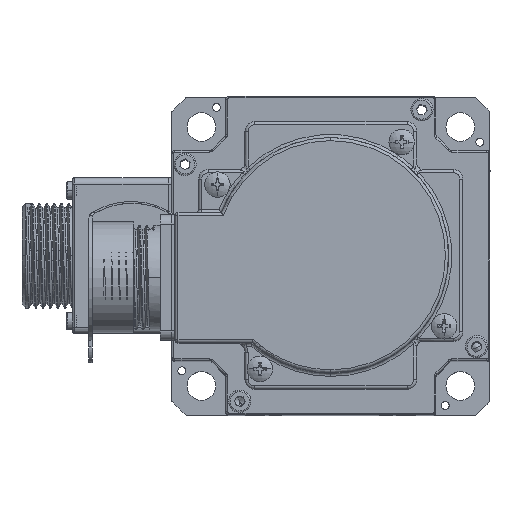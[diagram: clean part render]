
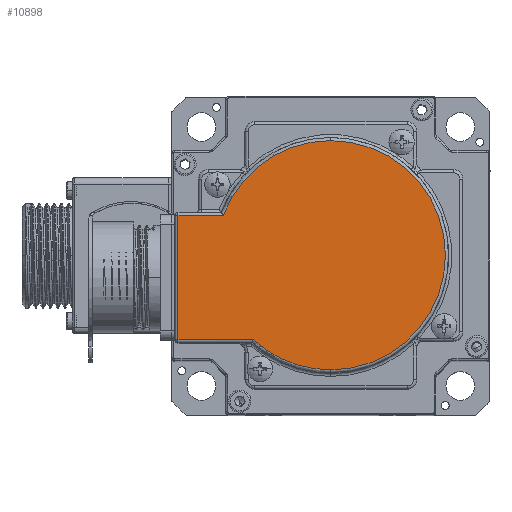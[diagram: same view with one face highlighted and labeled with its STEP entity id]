
A CAD part, top view. The second image highlights one B-rep face of the part: STEP entity #10898.
In plain terms, the highlighted planar face has unit normal (0, 0, 1).
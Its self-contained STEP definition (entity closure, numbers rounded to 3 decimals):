
#106 = LINE ( 'NONE', #30801, #6280 ) ;
#556 = CARTESIAN_POINT ( 'NONE',  ( -9.065, 12.699, 49.75 ) ) ;
#1313 = CARTESIAN_POINT ( 'NONE',  ( -9.065, 12.699, 49.75 ) ) ;
#1351 = ORIENTED_EDGE ( 'NONE', *, *, #22046, .T. ) ;
#1737 = AXIS2_PLACEMENT_3D ( 'NONE', #1313, #12179, #33423 ) ;
#2456 = ORIENTED_EDGE ( 'NONE', *, *, #19472, .T. ) ;
#2849 = CARTESIAN_POINT ( 'NONE',  ( -57.065, -13.801, 49.75 ) ) ;
#3850 = CIRCLE ( 'NONE', #21180, 36. ) ;
#4078 = EDGE_CURVE ( 'NONE', #29243, #14200, #106, .T. ) ;
#4944 = DIRECTION ( 'NONE',  ( 0., -1., 0. ) ) ;
#5261 = CARTESIAN_POINT ( 'NONE',  ( -33.819, -13.801, 49.75 ) ) ;
#5409 = CARTESIAN_POINT ( 'NONE',  ( -42.825, 25.199, 49.75 ) ) ;
#5993 = ORIENTED_EDGE ( 'NONE', *, *, #21563, .T. ) ;
#6280 = VECTOR ( 'NONE', #4944, 1000. ) ;
#6290 = DIRECTION ( 'NONE',  ( 0., 0., 1. ) ) ;
#6393 = ORIENTED_EDGE ( 'NONE', *, *, #22781, .T. ) ;
#6670 = VERTEX_POINT ( 'NONE', #10223 ) ;
#7163 = CARTESIAN_POINT ( 'NONE',  ( -33.432, -13.801, 49.75 ) ) ;
#8835 = DIRECTION ( 'NONE',  ( -1., 0., 0. ) ) ;
#10223 = CARTESIAN_POINT ( 'NONE',  ( -9.065, -23.301, 49.75 ) ) ;
#10898 = ADVANCED_FACE ( 'NONE', ( #22296 ), #26389, .T. ) ;
#11251 = EDGE_CURVE ( 'NONE', #6670, #18526, #24545, .T. ) ;
#11464 = ORIENTED_EDGE ( 'NONE', *, *, #4078, .T. ) ;
#11693 = VERTEX_POINT ( 'NONE', #5409 ) ;
#12179 = DIRECTION ( 'NONE',  ( 0., 0., 1. ) ) ;
#12510 = LINE ( 'NONE', #27522, #32060 ) ;
#14200 = VERTEX_POINT ( 'NONE', #2849 ) ;
#15179 = CARTESIAN_POINT ( 'NONE',  ( -57.065, 25.199, 49.75 ) ) ;
#15598 = CIRCLE ( 'NONE', #18035, 36. ) ;
#17094 = DIRECTION ( 'NONE',  ( 0., 1., 0. ) ) ;
#17541 = VECTOR ( 'NONE', #34324, 1000. ) ;
#18035 = AXIS2_PLACEMENT_3D ( 'NONE', #28686, #31495, #25872 ) ;
#18526 = VERTEX_POINT ( 'NONE', #26578 ) ;
#19472 = EDGE_CURVE ( 'NONE', #18526, #11693, #15598, .T. ) ;
#20131 = EDGE_LOOP ( 'NONE', ( #6393, #11464, #1351, #5993, #24631, #2456 ) ) ;
#20547 = CARTESIAN_POINT ( 'NONE',  ( -9.065, 12.699, 49.75 ) ) ;
#21180 = AXIS2_PLACEMENT_3D ( 'NONE', #20547, #25982, #28571 ) ;
#21563 = EDGE_CURVE ( 'NONE', #23686, #6670, #3850, .T. ) ;
#22046 = EDGE_CURVE ( 'NONE', #14200, #23686, #27090, .T. ) ;
#22296 = FACE_OUTER_BOUND ( 'NONE', #20131, .T. ) ;
#22781 = EDGE_CURVE ( 'NONE', #11693, #29243, #12510, .T. ) ;
#23686 = VERTEX_POINT ( 'NONE', #7163 ) ;
#24545 = CIRCLE ( 'NONE', #1737, 36. ) ;
#24631 = ORIENTED_EDGE ( 'NONE', *, *, #11251, .T. ) ;
#25872 = DIRECTION ( 'NONE',  ( 0., 1., 0. ) ) ;
#25982 = DIRECTION ( 'NONE',  ( 0., 0., 1. ) ) ;
#26389 = PLANE ( 'NONE',  #28390 ) ;
#26578 = CARTESIAN_POINT ( 'NONE',  ( -9.065, 48.699, 49.75 ) ) ;
#27090 = LINE ( 'NONE', #5261, #17541 ) ;
#27522 = CARTESIAN_POINT ( 'NONE',  ( -58.065, 25.199, 49.75 ) ) ;
#28390 = AXIS2_PLACEMENT_3D ( 'NONE', #556, #6290, #17094 ) ;
#28571 = DIRECTION ( 'NONE',  ( 0., 1., 0. ) ) ;
#28686 = CARTESIAN_POINT ( 'NONE',  ( -9.065, 12.699, 49.75 ) ) ;
#29243 = VERTEX_POINT ( 'NONE', #15179 ) ;
#30801 = CARTESIAN_POINT ( 'NONE',  ( -57.065, -14.801, 49.75 ) ) ;
#31495 = DIRECTION ( 'NONE',  ( 0., 0., 1. ) ) ;
#32060 = VECTOR ( 'NONE', #8835, 1000. ) ;
#33423 = DIRECTION ( 'NONE',  ( 0., 1., 0. ) ) ;
#34324 = DIRECTION ( 'NONE',  ( 1., 0., 0. ) ) ;
